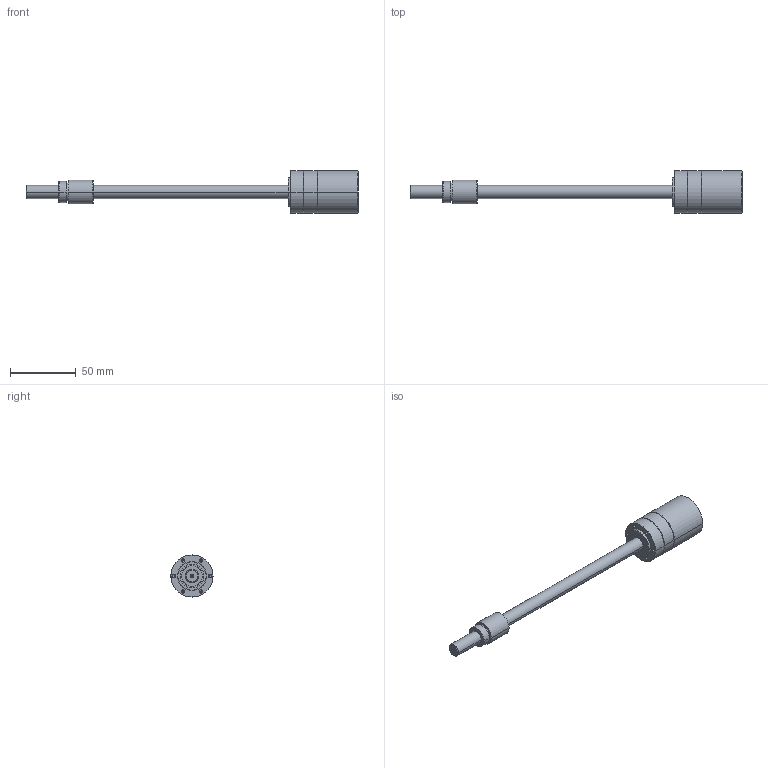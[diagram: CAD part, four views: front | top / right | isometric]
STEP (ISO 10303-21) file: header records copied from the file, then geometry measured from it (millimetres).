
FILE_DESCRIPTION((''),'2;1');
FILE_NAME('2633831','2016-10-05T',('mmagvisi'),(''),'CREO PARAMETRIC BY PTC INC, 2016050','CREO PARAMETRIC BY PTC INC, 2016050','');
FILE_SCHEMA(('CONFIG_CONTROL_DESIGN'));
Length unit declared in the file: millimetre
Products named in the file (1): 2633831
Bounding box: 251.8 x 32 x 32 mm (x, y, z)
Volume: 56516.5 mm3; surface area: 15320.3 mm2
Topology: 1 solids, 1 shells, 97 faces, 210 edges, 117 vertices
Faces by surface type: cone 42, cylinder 40, plane 13, torus 2
Entity records: 2706 total; most frequent: DIRECTION 494, CARTESIAN_POINT 486, ORIENTED_EDGE 392, AXIS2_PLACEMENT_3D 205, EDGE_CURVE 196, VERTEX_POINT 117, EDGE_LOOP 115, CIRCLE 108
